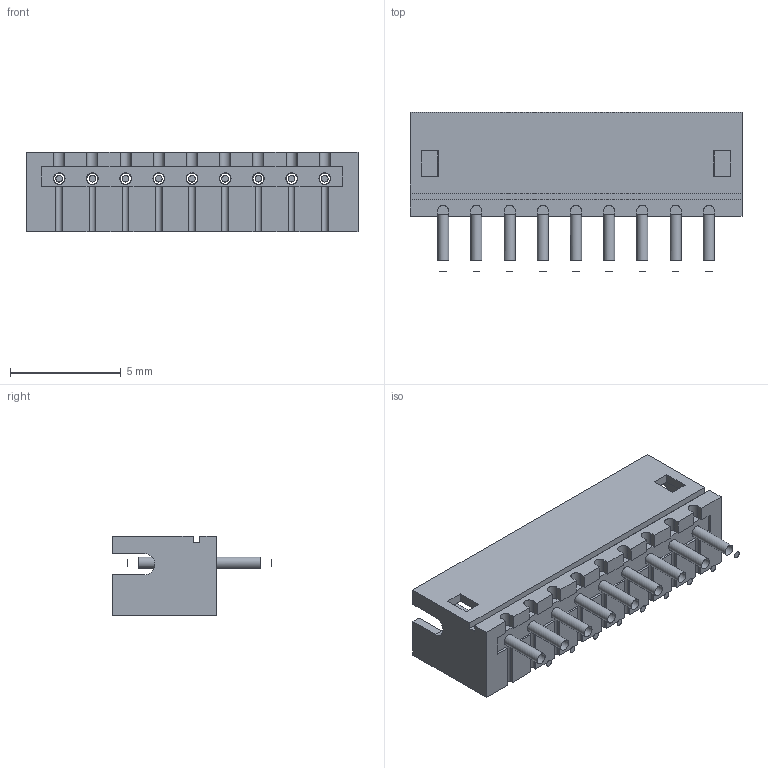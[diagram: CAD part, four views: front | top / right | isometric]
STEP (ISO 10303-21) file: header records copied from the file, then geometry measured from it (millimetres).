
FILE_DESCRIPTION(/* description */ (''),/* implementation_level */ '2;1');
FILE_NAME(/* name */ 'E:\工作文件\现出货3D文件\02宏一\ZH\HC-ZH-NA-02 (直针-HCTL)\HC-ZH-9A-02 (直针-HCTL).stp',/* time_stamp */ '2024-03-01T11:47:31+08:00',/* author */ ('admin'),/* organization */ (''),/* preprocessor_version */ 'ST-DEVELOPER v18.1',/* originating_system */ 'Autodesk Inventor 2021',/* authorisation */ '');
FILE_SCHEMA (('AUTOMOTIVE_DESIGN { 1 0 10303 214 3 1 1 }','PROCESS_PLANNING_SCHEMA'));
Length unit declared in the file: millimetre
Products named in the file (1): HC-ZH-5A-02 (直针-HCTL)
Bounding box: 15 x 7.2 x 3.6 mm (x, y, z)
Volume: 91.1 mm3; surface area: 536.4 mm2
Topology: 10 solids, 10 shells, 204 faces, 544 edges, 360 vertices
Faces by surface type: plane 148, cylinder 38, cone 18
Full cylindrical faces by diameter (mm): 0.5 x9, 0.53 x9
Entity records: 6505 total; most frequent: DIRECTION 1116, CARTESIAN_POINT 1109, ORIENTED_EDGE 1088, EDGE_CURVE 544, LINE 382, VECTOR 382, AXIS2_PLACEMENT_3D 367, VERTEX_POINT 360
